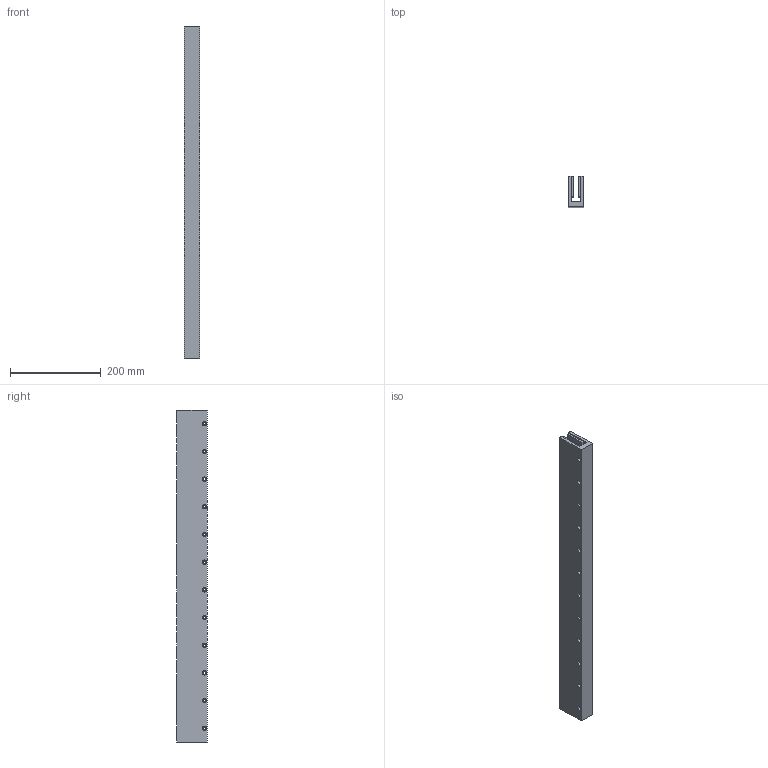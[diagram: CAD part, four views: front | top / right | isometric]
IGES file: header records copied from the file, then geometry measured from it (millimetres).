
Global section: file name: No Iges File Name specified; native system: Autodesk Inventor 2012; preprocessor: AutoDesk Inventor Iges Exporter R2012; author: je17857; date: 20120511.155647; units: inch
Bounding box: 34.29 x 67.31 x 731.27 mm (x, y, z)
Volume: 1087458.5 mm3; surface area: 277894.8 mm2
Topology: 1 solids, 1 shells, 310 faces, 708 edges, 472 vertices
Faces by surface type: plane 274, revolution 36
